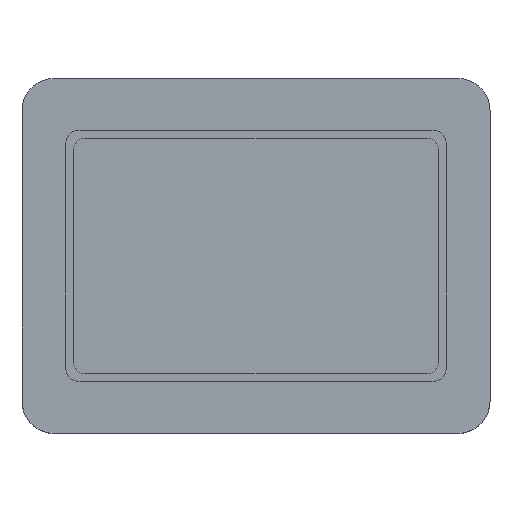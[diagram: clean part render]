
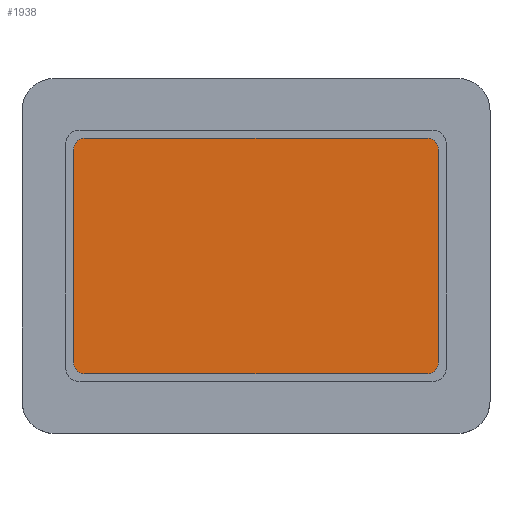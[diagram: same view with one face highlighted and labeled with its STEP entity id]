
A CAD part, top view. The second image highlights one B-rep face of the part: STEP entity #1938.
In plain terms, the highlighted planar face has unit normal (0, 0, 1).
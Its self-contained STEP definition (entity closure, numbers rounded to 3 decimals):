
#1331 = PLANE('',#1332);
#1332 = AXIS2_PLACEMENT_3D('',#1333,#1334,#1335);
#1333 = CARTESIAN_POINT('',(-11.3,-7.3,28.7));
#1334 = DIRECTION('',(0.,1.,0.));
#1335 = DIRECTION('',(1.,0.,0.));
#1359 = CYLINDRICAL_SURFACE('',#1360,0.7);
#1360 = AXIS2_PLACEMENT_3D('',#1361,#1362,#1363);
#1361 = CARTESIAN_POINT('',(-10.6,-6.6,28.7));
#1362 = DIRECTION('',(0.,0.,1.));
#1363 = DIRECTION('',(0.,-1.,0.));
#1386 = PLANE('',#1387);
#1387 = AXIS2_PLACEMENT_3D('',#1388,#1389,#1390);
#1388 = CARTESIAN_POINT('',(-11.3,7.3,28.7));
#1389 = DIRECTION('',(1.,0.,-0.));
#1390 = DIRECTION('',(0.,-1.,0.));
#1414 = CYLINDRICAL_SURFACE('',#1415,0.7);
#1415 = AXIS2_PLACEMENT_3D('',#1416,#1417,#1418);
#1416 = CARTESIAN_POINT('',(-10.6,6.6,28.7));
#1417 = DIRECTION('',(0.,0.,1.));
#1418 = DIRECTION('',(-0.,1.,0.));
#1441 = PLANE('',#1442);
#1442 = AXIS2_PLACEMENT_3D('',#1443,#1444,#1445);
#1443 = CARTESIAN_POINT('',(11.3,7.3,28.7));
#1444 = DIRECTION('',(0.,-1.,0.));
#1445 = DIRECTION('',(-1.,0.,0.));
#1469 = CYLINDRICAL_SURFACE('',#1470,0.7);
#1470 = AXIS2_PLACEMENT_3D('',#1471,#1472,#1473);
#1471 = CARTESIAN_POINT('',(10.6,6.6,28.7));
#1472 = DIRECTION('',(0.,0.,1.));
#1473 = DIRECTION('',(1.,0.,-0.));
#1496 = PLANE('',#1497);
#1497 = AXIS2_PLACEMENT_3D('',#1498,#1499,#1500);
#1498 = CARTESIAN_POINT('',(11.3,-7.3,28.7));
#1499 = DIRECTION('',(-1.,0.,0.));
#1500 = DIRECTION('',(0.,1.,0.));
#1522 = CYLINDRICAL_SURFACE('',#1523,0.7);
#1523 = AXIS2_PLACEMENT_3D('',#1524,#1525,#1526);
#1524 = CARTESIAN_POINT('',(10.6,-6.6,28.7));
#1525 = DIRECTION('',(0.,0.,1.));
#1526 = DIRECTION('',(0.,-1.,0.));
#1537 = EDGE_CURVE('',#1538,#1540,#1542,.T.);
#1538 = VERTEX_POINT('',#1539);
#1539 = CARTESIAN_POINT('',(-10.6,-7.3,28.7));
#1540 = VERTEX_POINT('',#1541);
#1541 = CARTESIAN_POINT('',(10.6,-7.3,28.7));
#1542 = SURFACE_CURVE('',#1543,(#1547,#1554),.PCURVE_S1.);
#1543 = LINE('',#1544,#1545);
#1544 = CARTESIAN_POINT('',(-11.3,-7.3,28.7));
#1545 = VECTOR('',#1546,1.);
#1546 = DIRECTION('',(1.,0.,0.));
#1547 = PCURVE('',#1331,#1548);
#1548 = DEFINITIONAL_REPRESENTATION('',(#1549),#1553);
#1549 = LINE('',#1550,#1551);
#1550 = CARTESIAN_POINT('',(0.,0.));
#1551 = VECTOR('',#1552,1.);
#1552 = DIRECTION('',(1.,0.));
#1553 = ( GEOMETRIC_REPRESENTATION_CONTEXT(2) 
PARAMETRIC_REPRESENTATION_CONTEXT() REPRESENTATION_CONTEXT('2D SPACE',''
  ) );
#1554 = PCURVE('',#1555,#1560);
#1555 = PLANE('',#1556);
#1556 = AXIS2_PLACEMENT_3D('',#1557,#1558,#1559);
#1557 = CARTESIAN_POINT('',(0.,0.,28.7));
#1558 = DIRECTION('',(0.,0.,1.));
#1559 = DIRECTION('',(1.,0.,-0.));
#1560 = DEFINITIONAL_REPRESENTATION('',(#1561),#1565);
#1561 = LINE('',#1562,#1563);
#1562 = CARTESIAN_POINT('',(-11.3,-7.3));
#1563 = VECTOR('',#1564,1.);
#1564 = DIRECTION('',(1.,0.));
#1565 = ( GEOMETRIC_REPRESENTATION_CONTEXT(2) 
PARAMETRIC_REPRESENTATION_CONTEXT() REPRESENTATION_CONTEXT('2D SPACE',''
  ) );
#1614 = EDGE_CURVE('',#1540,#1615,#1617,.T.);
#1615 = VERTEX_POINT('',#1616);
#1616 = CARTESIAN_POINT('',(11.3,-6.6,28.7));
#1617 = SURFACE_CURVE('',#1618,(#1623,#1630),.PCURVE_S1.);
#1618 = CIRCLE('',#1619,0.7);
#1619 = AXIS2_PLACEMENT_3D('',#1620,#1621,#1622);
#1620 = CARTESIAN_POINT('',(10.6,-6.6,28.7));
#1621 = DIRECTION('',(0.,0.,1.));
#1622 = DIRECTION('',(0.,-1.,0.));
#1623 = PCURVE('',#1522,#1624);
#1624 = DEFINITIONAL_REPRESENTATION('',(#1625),#1629);
#1625 = LINE('',#1626,#1627);
#1626 = CARTESIAN_POINT('',(0.,0.));
#1627 = VECTOR('',#1628,1.);
#1628 = DIRECTION('',(1.,0.));
#1629 = ( GEOMETRIC_REPRESENTATION_CONTEXT(2) 
PARAMETRIC_REPRESENTATION_CONTEXT() REPRESENTATION_CONTEXT('2D SPACE',''
  ) );
#1630 = PCURVE('',#1555,#1631);
#1631 = DEFINITIONAL_REPRESENTATION('',(#1632),#1636);
#1632 = CIRCLE('',#1633,0.7);
#1633 = AXIS2_PLACEMENT_2D('',#1634,#1635);
#1634 = CARTESIAN_POINT('',(10.6,-6.6));
#1635 = DIRECTION('',(0.,-1.));
#1636 = ( GEOMETRIC_REPRESENTATION_CONTEXT(2) 
PARAMETRIC_REPRESENTATION_CONTEXT() REPRESENTATION_CONTEXT('2D SPACE',''
  ) );
#1663 = EDGE_CURVE('',#1615,#1664,#1666,.T.);
#1664 = VERTEX_POINT('',#1665);
#1665 = CARTESIAN_POINT('',(11.3,6.6,28.7));
#1666 = SURFACE_CURVE('',#1667,(#1671,#1678),.PCURVE_S1.);
#1667 = LINE('',#1668,#1669);
#1668 = CARTESIAN_POINT('',(11.3,-7.3,28.7));
#1669 = VECTOR('',#1670,1.);
#1670 = DIRECTION('',(0.,1.,0.));
#1671 = PCURVE('',#1496,#1672);
#1672 = DEFINITIONAL_REPRESENTATION('',(#1673),#1677);
#1673 = LINE('',#1674,#1675);
#1674 = CARTESIAN_POINT('',(0.,0.));
#1675 = VECTOR('',#1676,1.);
#1676 = DIRECTION('',(1.,0.));
#1677 = ( GEOMETRIC_REPRESENTATION_CONTEXT(2) 
PARAMETRIC_REPRESENTATION_CONTEXT() REPRESENTATION_CONTEXT('2D SPACE',''
  ) );
#1678 = PCURVE('',#1555,#1679);
#1679 = DEFINITIONAL_REPRESENTATION('',(#1680),#1684);
#1680 = LINE('',#1681,#1682);
#1681 = CARTESIAN_POINT('',(11.3,-7.3));
#1682 = VECTOR('',#1683,1.);
#1683 = DIRECTION('',(0.,1.));
#1684 = ( GEOMETRIC_REPRESENTATION_CONTEXT(2) 
PARAMETRIC_REPRESENTATION_CONTEXT() REPRESENTATION_CONTEXT('2D SPACE',''
  ) );
#1713 = EDGE_CURVE('',#1664,#1714,#1716,.T.);
#1714 = VERTEX_POINT('',#1715);
#1715 = CARTESIAN_POINT('',(10.6,7.3,28.7));
#1716 = SURFACE_CURVE('',#1717,(#1722,#1729),.PCURVE_S1.);
#1717 = CIRCLE('',#1718,0.7);
#1718 = AXIS2_PLACEMENT_3D('',#1719,#1720,#1721);
#1719 = CARTESIAN_POINT('',(10.6,6.6,28.7));
#1720 = DIRECTION('',(0.,0.,1.));
#1721 = DIRECTION('',(0.,-1.,0.));
#1722 = PCURVE('',#1469,#1723);
#1723 = DEFINITIONAL_REPRESENTATION('',(#1724),#1728);
#1724 = LINE('',#1725,#1726);
#1725 = CARTESIAN_POINT('',(-1.571,0.));
#1726 = VECTOR('',#1727,1.);
#1727 = DIRECTION('',(1.,0.));
#1728 = ( GEOMETRIC_REPRESENTATION_CONTEXT(2) 
PARAMETRIC_REPRESENTATION_CONTEXT() REPRESENTATION_CONTEXT('2D SPACE',''
  ) );
#1729 = PCURVE('',#1555,#1730);
#1730 = DEFINITIONAL_REPRESENTATION('',(#1731),#1735);
#1731 = CIRCLE('',#1732,0.7);
#1732 = AXIS2_PLACEMENT_2D('',#1733,#1734);
#1733 = CARTESIAN_POINT('',(10.6,6.6));
#1734 = DIRECTION('',(0.,-1.));
#1735 = ( GEOMETRIC_REPRESENTATION_CONTEXT(2) 
PARAMETRIC_REPRESENTATION_CONTEXT() REPRESENTATION_CONTEXT('2D SPACE',''
  ) );
#1762 = EDGE_CURVE('',#1714,#1763,#1765,.T.);
#1763 = VERTEX_POINT('',#1764);
#1764 = CARTESIAN_POINT('',(-10.6,7.3,28.7));
#1765 = SURFACE_CURVE('',#1766,(#1770,#1777),.PCURVE_S1.);
#1766 = LINE('',#1767,#1768);
#1767 = CARTESIAN_POINT('',(11.3,7.3,28.7));
#1768 = VECTOR('',#1769,1.);
#1769 = DIRECTION('',(-1.,0.,0.));
#1770 = PCURVE('',#1441,#1771);
#1771 = DEFINITIONAL_REPRESENTATION('',(#1772),#1776);
#1772 = LINE('',#1773,#1774);
#1773 = CARTESIAN_POINT('',(0.,-0.));
#1774 = VECTOR('',#1775,1.);
#1775 = DIRECTION('',(1.,0.));
#1776 = ( GEOMETRIC_REPRESENTATION_CONTEXT(2) 
PARAMETRIC_REPRESENTATION_CONTEXT() REPRESENTATION_CONTEXT('2D SPACE',''
  ) );
#1777 = PCURVE('',#1555,#1778);
#1778 = DEFINITIONAL_REPRESENTATION('',(#1779),#1783);
#1779 = LINE('',#1780,#1781);
#1780 = CARTESIAN_POINT('',(11.3,7.3));
#1781 = VECTOR('',#1782,1.);
#1782 = DIRECTION('',(-1.,0.));
#1783 = ( GEOMETRIC_REPRESENTATION_CONTEXT(2) 
PARAMETRIC_REPRESENTATION_CONTEXT() REPRESENTATION_CONTEXT('2D SPACE',''
  ) );
#1812 = EDGE_CURVE('',#1763,#1813,#1815,.T.);
#1813 = VERTEX_POINT('',#1814);
#1814 = CARTESIAN_POINT('',(-11.3,6.6,28.7));
#1815 = SURFACE_CURVE('',#1816,(#1821,#1828),.PCURVE_S1.);
#1816 = CIRCLE('',#1817,0.7);
#1817 = AXIS2_PLACEMENT_3D('',#1818,#1819,#1820);
#1818 = CARTESIAN_POINT('',(-10.6,6.6,28.7));
#1819 = DIRECTION('',(0.,0.,1.));
#1820 = DIRECTION('',(0.,-1.,0.));
#1821 = PCURVE('',#1414,#1822);
#1822 = DEFINITIONAL_REPRESENTATION('',(#1823),#1827);
#1823 = LINE('',#1824,#1825);
#1824 = CARTESIAN_POINT('',(-3.142,0.));
#1825 = VECTOR('',#1826,1.);
#1826 = DIRECTION('',(1.,0.));
#1827 = ( GEOMETRIC_REPRESENTATION_CONTEXT(2) 
PARAMETRIC_REPRESENTATION_CONTEXT() REPRESENTATION_CONTEXT('2D SPACE',''
  ) );
#1828 = PCURVE('',#1555,#1829);
#1829 = DEFINITIONAL_REPRESENTATION('',(#1830),#1834);
#1830 = CIRCLE('',#1831,0.7);
#1831 = AXIS2_PLACEMENT_2D('',#1832,#1833);
#1832 = CARTESIAN_POINT('',(-10.6,6.6));
#1833 = DIRECTION('',(0.,-1.));
#1834 = ( GEOMETRIC_REPRESENTATION_CONTEXT(2) 
PARAMETRIC_REPRESENTATION_CONTEXT() REPRESENTATION_CONTEXT('2D SPACE',''
  ) );
#1861 = EDGE_CURVE('',#1813,#1862,#1864,.T.);
#1862 = VERTEX_POINT('',#1863);
#1863 = CARTESIAN_POINT('',(-11.3,-6.6,28.7));
#1864 = SURFACE_CURVE('',#1865,(#1869,#1876),.PCURVE_S1.);
#1865 = LINE('',#1866,#1867);
#1866 = CARTESIAN_POINT('',(-11.3,7.3,28.7));
#1867 = VECTOR('',#1868,1.);
#1868 = DIRECTION('',(0.,-1.,0.));
#1869 = PCURVE('',#1386,#1870);
#1870 = DEFINITIONAL_REPRESENTATION('',(#1871),#1875);
#1871 = LINE('',#1872,#1873);
#1872 = CARTESIAN_POINT('',(0.,0.));
#1873 = VECTOR('',#1874,1.);
#1874 = DIRECTION('',(1.,0.));
#1875 = ( GEOMETRIC_REPRESENTATION_CONTEXT(2) 
PARAMETRIC_REPRESENTATION_CONTEXT() REPRESENTATION_CONTEXT('2D SPACE',''
  ) );
#1876 = PCURVE('',#1555,#1877);
#1877 = DEFINITIONAL_REPRESENTATION('',(#1878),#1882);
#1878 = LINE('',#1879,#1880);
#1879 = CARTESIAN_POINT('',(-11.3,7.3));
#1880 = VECTOR('',#1881,1.);
#1881 = DIRECTION('',(0.,-1.));
#1882 = ( GEOMETRIC_REPRESENTATION_CONTEXT(2) 
PARAMETRIC_REPRESENTATION_CONTEXT() REPRESENTATION_CONTEXT('2D SPACE',''
  ) );
#1911 = EDGE_CURVE('',#1538,#1862,#1912,.T.);
#1912 = SURFACE_CURVE('',#1913,(#1918,#1925),.PCURVE_S1.);
#1913 = CIRCLE('',#1914,0.7);
#1914 = AXIS2_PLACEMENT_3D('',#1915,#1916,#1917);
#1915 = CARTESIAN_POINT('',(-10.6,-6.6,28.7));
#1916 = DIRECTION('',(-0.,-0.,-1.));
#1917 = DIRECTION('',(0.,-1.,0.));
#1918 = PCURVE('',#1359,#1919);
#1919 = DEFINITIONAL_REPRESENTATION('',(#1920),#1924);
#1920 = LINE('',#1921,#1922);
#1921 = CARTESIAN_POINT('',(-0.,0.));
#1922 = VECTOR('',#1923,1.);
#1923 = DIRECTION('',(-1.,0.));
#1924 = ( GEOMETRIC_REPRESENTATION_CONTEXT(2) 
PARAMETRIC_REPRESENTATION_CONTEXT() REPRESENTATION_CONTEXT('2D SPACE',''
  ) );
#1925 = PCURVE('',#1555,#1926);
#1926 = DEFINITIONAL_REPRESENTATION('',(#1927),#1935);
#1927 = ( BOUNDED_CURVE() B_SPLINE_CURVE(2,(#1928,#1929,#1930,#1931,
#1932,#1933,#1934),.UNSPECIFIED.,.T.,.F.) B_SPLINE_CURVE_WITH_KNOTS((1,2
    ,2,2,2,1),(-2.094,0.,2.094,4.189,
6.283,8.378),.UNSPECIFIED.) CURVE() 
GEOMETRIC_REPRESENTATION_ITEM() RATIONAL_B_SPLINE_CURVE((1.,0.5,1.,0.5,
1.,0.5,1.)) REPRESENTATION_ITEM('') );
#1928 = CARTESIAN_POINT('',(-10.6,-7.3));
#1929 = CARTESIAN_POINT('',(-11.812,-7.3));
#1930 = CARTESIAN_POINT('',(-11.206,-6.25));
#1931 = CARTESIAN_POINT('',(-10.6,-5.2));
#1932 = CARTESIAN_POINT('',(-9.994,-6.25));
#1933 = CARTESIAN_POINT('',(-9.388,-7.3));
#1934 = CARTESIAN_POINT('',(-10.6,-7.3));
#1935 = ( GEOMETRIC_REPRESENTATION_CONTEXT(2) 
PARAMETRIC_REPRESENTATION_CONTEXT() REPRESENTATION_CONTEXT('2D SPACE',''
  ) );
#1938 = ADVANCED_FACE('',(#1939),#1555,.T.);
#1939 = FACE_BOUND('',#1940,.T.);
#1940 = EDGE_LOOP('',(#1941,#1942,#1943,#1944,#1945,#1946,#1947,#1948));
#1941 = ORIENTED_EDGE('',*,*,#1537,.T.);
#1942 = ORIENTED_EDGE('',*,*,#1614,.T.);
#1943 = ORIENTED_EDGE('',*,*,#1663,.T.);
#1944 = ORIENTED_EDGE('',*,*,#1713,.T.);
#1945 = ORIENTED_EDGE('',*,*,#1762,.T.);
#1946 = ORIENTED_EDGE('',*,*,#1812,.T.);
#1947 = ORIENTED_EDGE('',*,*,#1861,.T.);
#1948 = ORIENTED_EDGE('',*,*,#1911,.F.);
